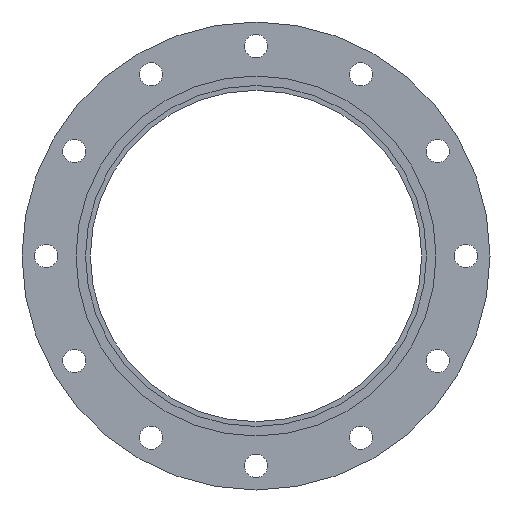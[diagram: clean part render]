
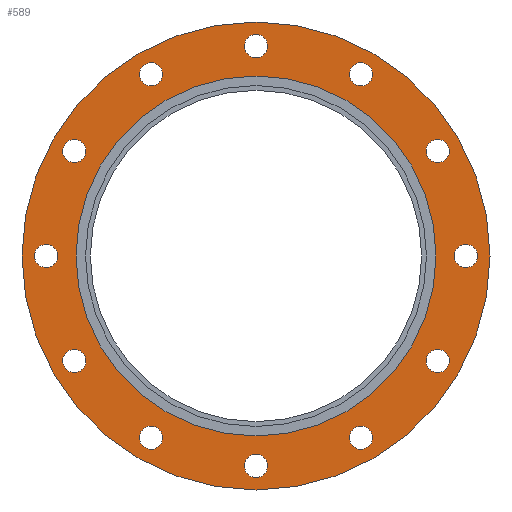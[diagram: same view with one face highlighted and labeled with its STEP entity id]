
A CAD part, left-side view. The second image highlights one B-rep face of the part: STEP entity #589.
In plain terms, the highlighted planar face has unit normal (-1, 0, 0).
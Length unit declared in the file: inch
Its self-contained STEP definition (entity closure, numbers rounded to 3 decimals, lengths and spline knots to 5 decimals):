
#49=FACE_BOUND('',#135,.T.);
#50=FACE_BOUND('',#136,.T.);
#51=FACE_BOUND('',#137,.T.);
#52=FACE_BOUND('',#138,.T.);
#53=FACE_BOUND('',#139,.T.);
#54=FACE_BOUND('',#140,.T.);
#55=FACE_BOUND('',#141,.T.);
#56=FACE_BOUND('',#142,.T.);
#57=FACE_BOUND('',#143,.T.);
#58=FACE_BOUND('',#144,.T.);
#59=FACE_BOUND('',#145,.T.);
#60=FACE_BOUND('',#146,.T.);
#61=FACE_BOUND('',#147,.T.);
#80=PLANE('',#679);
#104=FACE_OUTER_BOUND('',#134,.T.);
#134=EDGE_LOOP('',(#473,#474));
#135=EDGE_LOOP('',(#475));
#136=EDGE_LOOP('',(#476));
#137=EDGE_LOOP('',(#477));
#138=EDGE_LOOP('',(#478));
#139=EDGE_LOOP('',(#479));
#140=EDGE_LOOP('',(#480));
#141=EDGE_LOOP('',(#481));
#142=EDGE_LOOP('',(#482));
#143=EDGE_LOOP('',(#483));
#144=EDGE_LOOP('',(#484));
#145=EDGE_LOOP('',(#485));
#146=EDGE_LOOP('',(#486));
#147=EDGE_LOOP('',(#487,#488));
#205=CIRCLE('',#616,0.435);
#207=CIRCLE('',#619,0.435);
#209=CIRCLE('',#622,0.435);
#211=CIRCLE('',#625,0.435);
#213=CIRCLE('',#628,0.435);
#215=CIRCLE('',#631,0.435);
#217=CIRCLE('',#634,0.435);
#219=CIRCLE('',#637,0.435);
#221=CIRCLE('',#640,0.435);
#223=CIRCLE('',#643,0.435);
#225=CIRCLE('',#646,0.435);
#227=CIRCLE('',#649,0.435);
#246=CIRCLE('',#677,6.73);
#247=CIRCLE('',#678,6.73);
#248=CIRCLE('',#680,8.75);
#249=CIRCLE('',#681,8.75);
#257=VERTEX_POINT('',#912);
#259=VERTEX_POINT('',#918);
#261=VERTEX_POINT('',#924);
#263=VERTEX_POINT('',#930);
#265=VERTEX_POINT('',#936);
#267=VERTEX_POINT('',#942);
#269=VERTEX_POINT('',#948);
#271=VERTEX_POINT('',#954);
#273=VERTEX_POINT('',#960);
#275=VERTEX_POINT('',#966);
#277=VERTEX_POINT('',#972);
#279=VERTEX_POINT('',#978);
#298=VERTEX_POINT('',#1030);
#299=VERTEX_POINT('',#1031);
#300=VERTEX_POINT('',#1036);
#301=VERTEX_POINT('',#1037);
#310=EDGE_CURVE('',#257,#257,#205,.T.);
#313=EDGE_CURVE('',#259,#259,#207,.T.);
#316=EDGE_CURVE('',#261,#261,#209,.T.);
#319=EDGE_CURVE('',#263,#263,#211,.T.);
#322=EDGE_CURVE('',#265,#265,#213,.T.);
#325=EDGE_CURVE('',#267,#267,#215,.T.);
#328=EDGE_CURVE('',#269,#269,#217,.T.);
#331=EDGE_CURVE('',#271,#271,#219,.T.);
#334=EDGE_CURVE('',#273,#273,#221,.T.);
#337=EDGE_CURVE('',#275,#275,#223,.T.);
#340=EDGE_CURVE('',#277,#277,#225,.T.);
#343=EDGE_CURVE('',#279,#279,#227,.T.);
#366=EDGE_CURVE('',#298,#299,#246,.T.);
#367=EDGE_CURVE('',#299,#298,#247,.T.);
#369=EDGE_CURVE('',#300,#301,#248,.T.);
#370=EDGE_CURVE('',#301,#300,#249,.T.);
#473=ORIENTED_EDGE('',*,*,#369,.F.);
#474=ORIENTED_EDGE('',*,*,#370,.F.);
#475=ORIENTED_EDGE('',*,*,#310,.T.);
#476=ORIENTED_EDGE('',*,*,#313,.T.);
#477=ORIENTED_EDGE('',*,*,#316,.T.);
#478=ORIENTED_EDGE('',*,*,#319,.T.);
#479=ORIENTED_EDGE('',*,*,#322,.T.);
#480=ORIENTED_EDGE('',*,*,#325,.T.);
#481=ORIENTED_EDGE('',*,*,#328,.T.);
#482=ORIENTED_EDGE('',*,*,#331,.T.);
#483=ORIENTED_EDGE('',*,*,#334,.T.);
#484=ORIENTED_EDGE('',*,*,#337,.T.);
#485=ORIENTED_EDGE('',*,*,#340,.T.);
#486=ORIENTED_EDGE('',*,*,#343,.T.);
#487=ORIENTED_EDGE('',*,*,#366,.T.);
#488=ORIENTED_EDGE('',*,*,#367,.T.);
#589=ADVANCED_FACE('',(#104,#49,#50,#51,#52,#53,#54,#55,#56,#57,#58,#59,
#60,#61),#80,.T.);
#616=AXIS2_PLACEMENT_3D('',#914,#712,#713);
#619=AXIS2_PLACEMENT_3D('',#920,#719,#720);
#622=AXIS2_PLACEMENT_3D('',#926,#726,#727);
#625=AXIS2_PLACEMENT_3D('',#932,#733,#734);
#628=AXIS2_PLACEMENT_3D('',#938,#740,#741);
#631=AXIS2_PLACEMENT_3D('',#944,#747,#748);
#634=AXIS2_PLACEMENT_3D('',#950,#754,#755);
#637=AXIS2_PLACEMENT_3D('',#956,#761,#762);
#640=AXIS2_PLACEMENT_3D('',#962,#768,#769);
#643=AXIS2_PLACEMENT_3D('',#968,#775,#776);
#646=AXIS2_PLACEMENT_3D('',#974,#782,#783);
#649=AXIS2_PLACEMENT_3D('',#980,#789,#790);
#677=AXIS2_PLACEMENT_3D('',#1032,#849,#850);
#678=AXIS2_PLACEMENT_3D('',#1033,#851,#852);
#679=AXIS2_PLACEMENT_3D('',#1035,#854,#855);
#680=AXIS2_PLACEMENT_3D('',#1038,#856,#857);
#681=AXIS2_PLACEMENT_3D('',#1039,#858,#859);
#712=DIRECTION('center_axis',(1.,0.,0.));
#713=DIRECTION('ref_axis',(0.,0.5,0.866));
#719=DIRECTION('center_axis',(1.,0.,0.));
#720=DIRECTION('ref_axis',(0.,0.866,0.5));
#726=DIRECTION('center_axis',(1.,0.,0.));
#727=DIRECTION('ref_axis',(0.,1.,0.));
#733=DIRECTION('center_axis',(1.,0.,0.));
#734=DIRECTION('ref_axis',(0.,0.866,-0.5));
#740=DIRECTION('center_axis',(1.,0.,0.));
#741=DIRECTION('ref_axis',(0.,0.5,-0.866));
#747=DIRECTION('center_axis',(1.,0.,0.));
#748=DIRECTION('ref_axis',(0.,0.,-1.));
#754=DIRECTION('center_axis',(1.,0.,0.));
#755=DIRECTION('ref_axis',(0.,-0.5,-0.866));
#761=DIRECTION('center_axis',(1.,0.,0.));
#762=DIRECTION('ref_axis',(0.,-0.866,-0.5));
#768=DIRECTION('center_axis',(1.,0.,0.));
#769=DIRECTION('ref_axis',(0.,-1.,0.));
#775=DIRECTION('center_axis',(1.,0.,0.));
#776=DIRECTION('ref_axis',(0.,-0.866,0.5));
#782=DIRECTION('center_axis',(1.,0.,0.));
#783=DIRECTION('ref_axis',(0.,-0.5,0.866));
#789=DIRECTION('center_axis',(1.,0.,0.));
#790=DIRECTION('ref_axis',(0.,0.,1.));
#849=DIRECTION('center_axis',(1.,0.,0.));
#850=DIRECTION('ref_axis',(0.,0.,-1.));
#851=DIRECTION('center_axis',(1.,0.,0.));
#852=DIRECTION('ref_axis',(0.,0.,-1.));
#854=DIRECTION('center_axis',(-1.,0.,0.));
#855=DIRECTION('ref_axis',(0.,0.,1.));
#856=DIRECTION('center_axis',(1.,0.,0.));
#857=DIRECTION('ref_axis',(0.,0.,-1.));
#858=DIRECTION('center_axis',(1.,0.,0.));
#859=DIRECTION('ref_axis',(0.,0.,-1.));
#912=CARTESIAN_POINT('',(-1.02,6.5808,-4.30172));
#914=CARTESIAN_POINT('Origin',(-1.02,6.7983,-3.925));
#918=CARTESIAN_POINT('',(-1.02,3.54828,-7.0158));
#920=CARTESIAN_POINT('Origin',(-1.02,3.925,-6.7983));
#924=CARTESIAN_POINT('',(-1.02,-0.435,-7.85));
#926=CARTESIAN_POINT('Origin',(-1.02,0.,-7.85));
#930=CARTESIAN_POINT('',(-1.02,-4.30172,-6.5808));
#932=CARTESIAN_POINT('Origin',(-1.02,-3.925,-6.7983));
#936=CARTESIAN_POINT('',(-1.02,-7.0158,-3.54828));
#938=CARTESIAN_POINT('Origin',(-1.02,-6.7983,-3.925));
#942=CARTESIAN_POINT('',(-1.02,-7.85,0.435));
#944=CARTESIAN_POINT('Origin',(-1.02,-7.85,0.));
#948=CARTESIAN_POINT('',(-1.02,-6.5808,4.30172));
#950=CARTESIAN_POINT('Origin',(-1.02,-6.7983,3.925));
#954=CARTESIAN_POINT('',(-1.02,-3.54828,7.0158));
#956=CARTESIAN_POINT('Origin',(-1.02,-3.925,6.7983));
#960=CARTESIAN_POINT('',(-1.02,0.435,7.85));
#962=CARTESIAN_POINT('Origin',(-1.02,0.,7.85));
#966=CARTESIAN_POINT('',(-1.02,4.30172,6.5808));
#968=CARTESIAN_POINT('Origin',(-1.02,3.925,6.7983));
#972=CARTESIAN_POINT('',(-1.02,7.0158,3.54828));
#974=CARTESIAN_POINT('Origin',(-1.02,6.7983,3.925));
#978=CARTESIAN_POINT('',(-1.02,7.85,-0.435));
#980=CARTESIAN_POINT('Origin',(-1.02,7.85,0.));
#1030=CARTESIAN_POINT('',(-1.02,6.73,0.));
#1031=CARTESIAN_POINT('',(-1.02,-6.73,0.));
#1032=CARTESIAN_POINT('Origin',(-1.02,0.,0.));
#1033=CARTESIAN_POINT('Origin',(-1.02,0.,0.));
#1035=CARTESIAN_POINT('Origin',(-1.02,8.75,0.));
#1036=CARTESIAN_POINT('',(-1.02,8.75,0.));
#1037=CARTESIAN_POINT('',(-1.02,-8.75,0.));
#1038=CARTESIAN_POINT('Origin',(-1.02,0.,0.));
#1039=CARTESIAN_POINT('Origin',(-1.02,0.,0.));
